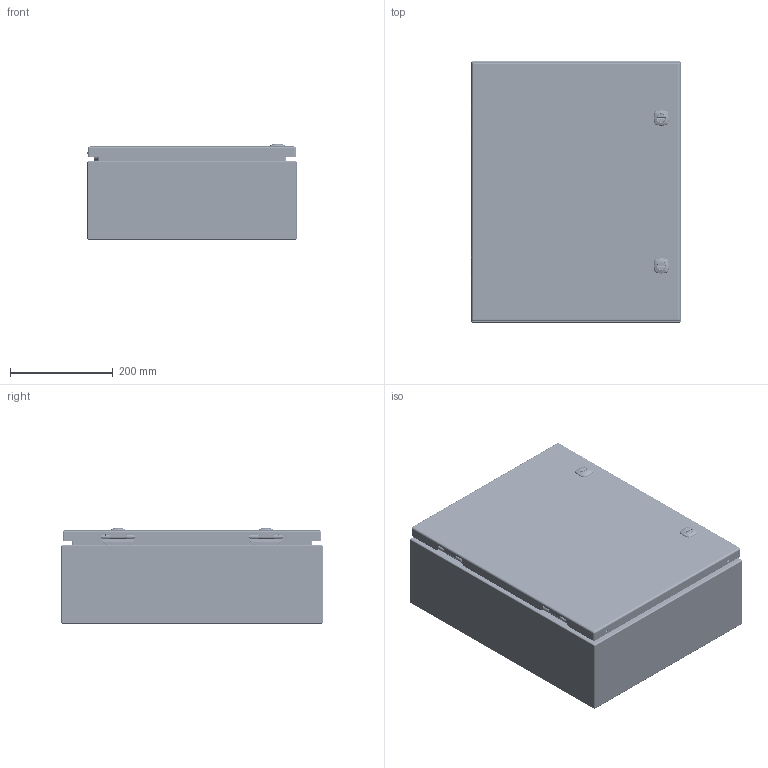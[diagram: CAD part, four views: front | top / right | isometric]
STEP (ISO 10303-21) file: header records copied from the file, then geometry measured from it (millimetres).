
FILE_DESCRIPTION(/* description */ ('5412ES 20" x 16" x 6" Assembly'),/* implementation_level */ '2;1');
FILE_NAME(/* name */ '5412ES201606.stp',/* time_stamp */ '2024-09-26T04:00:49-04:00',/* author */ ('BoxCad'),/* organization */ (''),/* preprocessor_version */ 'ST-DEVELOPER v20',/* originating_system */ 'Autodesk Inventor 2024',/* authorisation */ '');
FILE_SCHEMA (('AUTOMOTIVE_DESIGN { 1 0 10303 214 3 1 1 }'));
Products named in the file (44): 5412ES201606; 5412ES201606B; 5412ES201606B-P; STK-Q-16005; STUD_M6 x 16mm; 5412ES201606C; 5412ES201606C-P; 5412ES201606G; STK-K-09800-1; STK-K-09800-2; STK-Q-33014; STK-Q-90398; STK-Q-40095; STK-Q-63410; STK-Q-16055; STK-Q-46020-20; STK-Q-07220-1; STK-Q-07220-2; STK-Q-07220-3; STK-Q-07220-4; STK-Q-07220-A; STK-Q-07220-B; STK-P-02400S; STK-S-00100; STK-K-12500; STK-Q-78111; STK-Q-78141; STK-Q-78120; STK-Q-78145; STK-Q-03200; STK-Q-78160; STK-Q-90390; STK-Q-78111-R; STK-Q-04050-08-1; STK-Q-04050-08-2; STK-Q-04050-08-P; STK-Q-04051-N; STK-A-01800; 880 PP; 5412ES201606IPK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
Assembly tree (74 placements, depth 4):
  5412ES201606
    5412ES201606B
      5412ES201606B-P
      STK-Q-16005  x4
      STK-P-02400S
      STUD_M6 x 16mm
    5412ES201606C
      5412ES201606C-P
      5412ES201606G
      STK-K-09800-1
        STK-Q-33014
        STK-Q-90398
        STK-Q-40095  x2
        STK-Q-63410  x2
      STK-K-09800-2
        STK-Q-33014
        STK-Q-90398
        STK-Q-40095  x2
        STK-Q-63410  x2
      STK-Q-16055  x4
      STK-Q-46020-20  x2
      STK-Q-07220-1
        STK-Q-07220-A
        STK-Q-07220-B
      STK-Q-07220-2
        STK-Q-07220-A
        STK-Q-07220-B
      STK-Q-07220-3
        STK-Q-07220-A
        STK-Q-07220-B
      STK-Q-07220-4
        STK-Q-07220-A
        STK-Q-07220-B
      STK-P-02400S
      STK-S-00100
      STK-K-12500  x2
        STK-Q-78111
        STK-Q-78141
        STK-Q-78120
        STK-Q-78145
        STK-Q-03200
        STK-Q-78160
        STK-Q-90390
        STK-Q-78111-R
    STK-Q-04050-08-1
      STK-Q-04050-08-P
      STK-Q-04051-N
    STK-Q-04050-08-2
      STK-Q-04050-08-P
      STK-Q-04051-N
    STK-A-01800
    880 PP
    5412ES201606IPK
      STK-Q-07610  x4
      STK-Q-07310  x4
    881SP2016G
      881SP2016G-P
Bounding box: 406.47 x 508 x 185.67 mm (x, y, z)
Volume: 1672582 mm3; surface area: 2104123.9 mm2
Topology: 64 solids, 64 shells, 9946 faces, 26181 edges, 16372 vertices
Faces by surface type: bspline 3432, plane 2995, cylinder 2500, torus 663, sphere 220, cone 136
Full cylindrical faces by diameter (mm): 0 x1, 0.75 x9, 0.762 x9, 1 x8, 1.1 x8, 3.2 x4, 4.191 x32, 4.5 x4, 4.521 x8, 4.75 x2, 4.85 x16, 4.95 x4, 5 x4, 5.1 x30, 5.156 x4, 5.6 x2, 5.9 x25, 6.015 x32, 6.65 x4, 6.8 x4, 6.85 x16, 7.3 x2, 7.366 x4, 7.9 x8, 8 x12, 8.382 x2, 9.5 x4, 9.6 x2, 9.906 x4, 10 x2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
Entity records: 153408 total; most frequent: CARTESIAN_POINT 61778, ORIENTED_EDGE 20690, DIRECTION 15366, EDGE_CURVE 10345, VERTEX_POINT 6456, AXIS2_PLACEMENT_3D 5709, EDGE_LOOP 4291, FACE_OUTER_BOUND 4057
